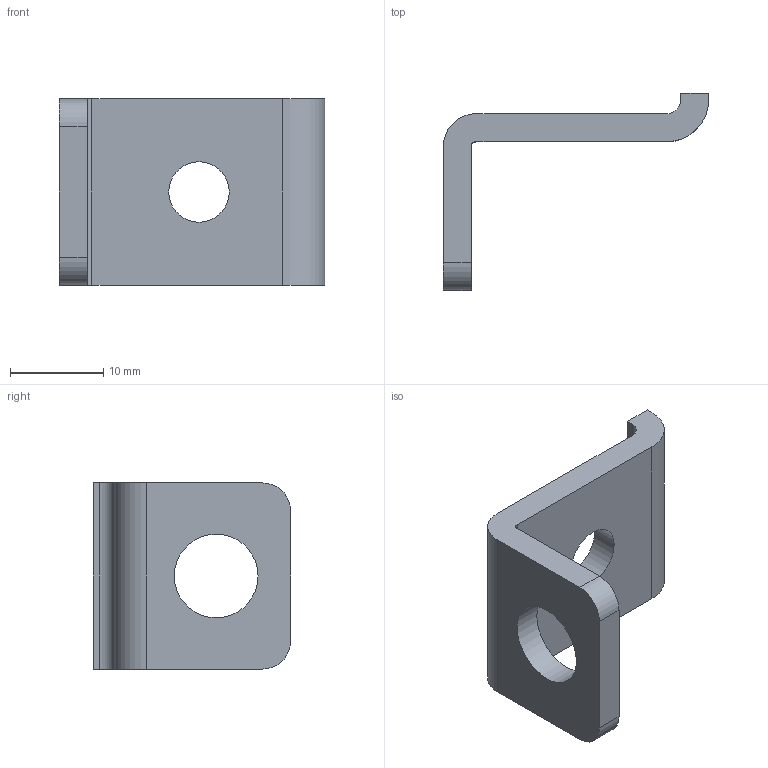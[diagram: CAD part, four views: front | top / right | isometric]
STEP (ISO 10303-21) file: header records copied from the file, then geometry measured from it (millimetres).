
FILE_DESCRIPTION((''),'2;1');
FILE_NAME('C:\Uebbing\PARAMETERKETTEN\PFR\PFR 221\Anschlusswinkel.stp','2012-03-30T08:15:47',('Uebbing'),(''),'Autodesk Inventor 10','Autodesk Inventor 10','');
FILE_SCHEMA(('AUTOMOTIVE_DESIGN { 1 0 10303 214 1 1 1 1 }'));
Length unit declared in the file: millimetre
Products named in the file (1): Anschlusswinkel
Bounding box: 28.5 x 21.2 x 20 mm (x, y, z)
Volume: 2371.2 mm3; surface area: 2106.5 mm2
Topology: 1 solids, 1 shells, 18 faces, 48 edges, 32 vertices
Faces by surface type: plane 10, cylinder 8
Full cylindrical faces by diameter (mm): 6.5 x1, 9 x1
Entity records: 589 total; most frequent: DIRECTION 100, CARTESIAN_POINT 97, ORIENTED_EDGE 92, EDGE_CURVE 46, AXIS2_PLACEMENT_3D 35, VERTEX_POINT 32, VECTOR 30, LINE 30
